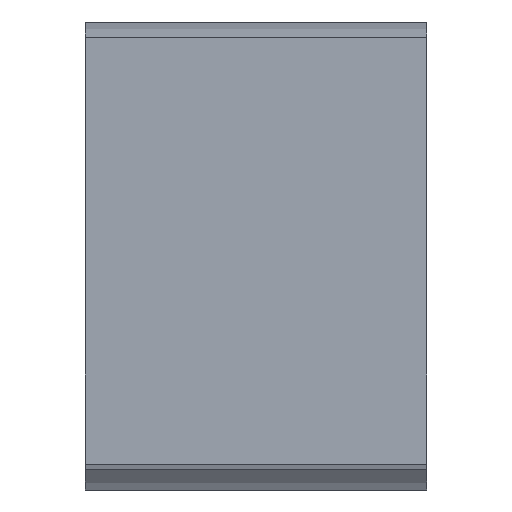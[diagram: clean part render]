
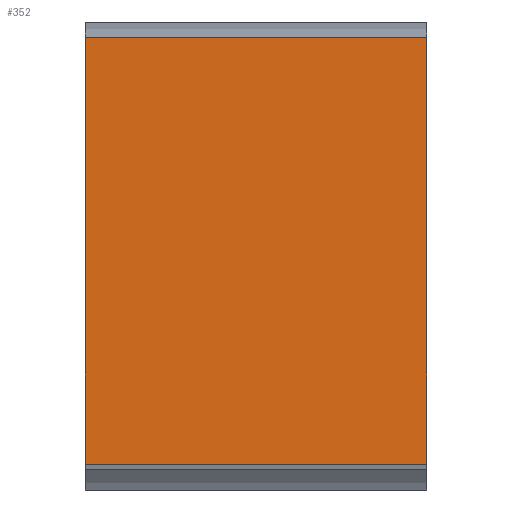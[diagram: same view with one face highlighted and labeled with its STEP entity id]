
A CAD part, top view. The second image highlights one B-rep face of the part: STEP entity #352.
In plain terms, the highlighted planar face has unit normal (0, 0, 1).
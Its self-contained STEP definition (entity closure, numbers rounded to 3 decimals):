
#33 = PLANE('',#34);
#34 = AXIS2_PLACEMENT_3D('',#35,#36,#37);
#35 = CARTESIAN_POINT('',(-4.,-5.,-80.));
#36 = DIRECTION('',(1.,0.,0.));
#37 = DIRECTION('',(0.,0.,1.));
#62 = VERTEX_POINT('',#63);
#63 = CARTESIAN_POINT('',(-4.,5.,-9.));
#77 = PLANE('',#78);
#78 = AXIS2_PLACEMENT_3D('',#79,#80,#81);
#79 = CARTESIAN_POINT('',(-4.,5.,-80.));
#80 = DIRECTION('',(0.,1.,0.));
#81 = DIRECTION('',(0.,0.,1.));
#89 = EDGE_CURVE('',#90,#62,#92,.T.);
#90 = VERTEX_POINT('',#91);
#91 = CARTESIAN_POINT('',(-4.,-5.,-9.));
#92 = SURFACE_CURVE('',#93,(#97,#104),.PCURVE_S1.);
#93 = LINE('',#94,#95);
#94 = CARTESIAN_POINT('',(-4.,-5.,-9.));
#95 = VECTOR('',#96,1.);
#96 = DIRECTION('',(0.,1.,0.));
#97 = PCURVE('',#33,#98);
#98 = DEFINITIONAL_REPRESENTATION('',(#99),#103);
#99 = LINE('',#100,#101);
#100 = CARTESIAN_POINT('',(71.,0.));
#101 = VECTOR('',#102,1.);
#102 = DIRECTION('',(0.,-1.));
#103 = ( GEOMETRIC_REPRESENTATION_CONTEXT(2) 
PARAMETRIC_REPRESENTATION_CONTEXT() REPRESENTATION_CONTEXT('2D SPACE',''
  ) );
#104 = PCURVE('',#105,#110);
#105 = PLANE('',#106);
#106 = AXIS2_PLACEMENT_3D('',#107,#108,#109);
#107 = CARTESIAN_POINT('',(-4.,-5.,-9.));
#108 = DIRECTION('',(0.,0.,1.));
#109 = DIRECTION('',(1.,0.,0.));
#110 = DEFINITIONAL_REPRESENTATION('',(#111),#115);
#111 = LINE('',#112,#113);
#112 = CARTESIAN_POINT('',(0.,0.));
#113 = VECTOR('',#114,1.);
#114 = DIRECTION('',(0.,1.));
#115 = ( GEOMETRIC_REPRESENTATION_CONTEXT(2) 
PARAMETRIC_REPRESENTATION_CONTEXT() REPRESENTATION_CONTEXT('2D SPACE',''
  ) );
#131 = PLANE('',#132);
#132 = AXIS2_PLACEMENT_3D('',#133,#134,#135);
#133 = CARTESIAN_POINT('',(-4.,-5.,-80.));
#134 = DIRECTION('',(0.,1.,0.));
#135 = DIRECTION('',(0.,0.,1.));
#200 = PLANE('',#201);
#201 = AXIS2_PLACEMENT_3D('',#202,#203,#204);
#202 = CARTESIAN_POINT('',(4.,0.,-80.));
#203 = DIRECTION('',(1.,0.,0.));
#204 = DIRECTION('',(-0.,0.,1.));
#259 = VERTEX_POINT('',#260);
#260 = CARTESIAN_POINT('',(4.,5.,-9.));
#283 = EDGE_CURVE('',#62,#259,#284,.T.);
#284 = SURFACE_CURVE('',#285,(#289,#296),.PCURVE_S1.);
#285 = LINE('',#286,#287);
#286 = CARTESIAN_POINT('',(-4.,5.,-9.));
#287 = VECTOR('',#288,1.);
#288 = DIRECTION('',(1.,0.,0.));
#289 = PCURVE('',#77,#290);
#290 = DEFINITIONAL_REPRESENTATION('',(#291),#295);
#291 = LINE('',#292,#293);
#292 = CARTESIAN_POINT('',(71.,0.));
#293 = VECTOR('',#294,1.);
#294 = DIRECTION('',(0.,1.));
#295 = ( GEOMETRIC_REPRESENTATION_CONTEXT(2) 
PARAMETRIC_REPRESENTATION_CONTEXT() REPRESENTATION_CONTEXT('2D SPACE',''
  ) );
#296 = PCURVE('',#105,#297);
#297 = DEFINITIONAL_REPRESENTATION('',(#298),#302);
#298 = LINE('',#299,#300);
#299 = CARTESIAN_POINT('',(0.,10.));
#300 = VECTOR('',#301,1.);
#301 = DIRECTION('',(1.,0.));
#302 = ( GEOMETRIC_REPRESENTATION_CONTEXT(2) 
PARAMETRIC_REPRESENTATION_CONTEXT() REPRESENTATION_CONTEXT('2D SPACE',''
  ) );
#308 = VERTEX_POINT('',#309);
#309 = CARTESIAN_POINT('',(4.,-5.,-9.));
#332 = EDGE_CURVE('',#90,#308,#333,.T.);
#333 = SURFACE_CURVE('',#334,(#338,#345),.PCURVE_S1.);
#334 = LINE('',#335,#336);
#335 = CARTESIAN_POINT('',(-4.,-5.,-9.));
#336 = VECTOR('',#337,1.);
#337 = DIRECTION('',(1.,0.,0.));
#338 = PCURVE('',#131,#339);
#339 = DEFINITIONAL_REPRESENTATION('',(#340),#344);
#340 = LINE('',#341,#342);
#341 = CARTESIAN_POINT('',(71.,0.));
#342 = VECTOR('',#343,1.);
#343 = DIRECTION('',(0.,1.));
#344 = ( GEOMETRIC_REPRESENTATION_CONTEXT(2) 
PARAMETRIC_REPRESENTATION_CONTEXT() REPRESENTATION_CONTEXT('2D SPACE',''
  ) );
#345 = PCURVE('',#105,#346);
#346 = DEFINITIONAL_REPRESENTATION('',(#347),#351);
#347 = LINE('',#348,#349);
#348 = CARTESIAN_POINT('',(0.,0.));
#349 = VECTOR('',#350,1.);
#350 = DIRECTION('',(1.,0.));
#351 = ( GEOMETRIC_REPRESENTATION_CONTEXT(2) 
PARAMETRIC_REPRESENTATION_CONTEXT() REPRESENTATION_CONTEXT('2D SPACE',''
  ) );
#352 = ADVANCED_FACE('',(#353),#105,.T.);
#353 = FACE_BOUND('',#354,.T.);
#354 = EDGE_LOOP('',(#355,#356,#357,#378));
#355 = ORIENTED_EDGE('',*,*,#89,.F.);
#356 = ORIENTED_EDGE('',*,*,#332,.T.);
#357 = ORIENTED_EDGE('',*,*,#358,.T.);
#358 = EDGE_CURVE('',#308,#259,#359,.T.);
#359 = SURFACE_CURVE('',#360,(#364,#371),.PCURVE_S1.);
#360 = LINE('',#361,#362);
#361 = CARTESIAN_POINT('',(4.,-5.,-9.));
#362 = VECTOR('',#363,1.);
#363 = DIRECTION('',(0.,1.,0.));
#364 = PCURVE('',#105,#365);
#365 = DEFINITIONAL_REPRESENTATION('',(#366),#370);
#366 = LINE('',#367,#368);
#367 = CARTESIAN_POINT('',(8.,0.));
#368 = VECTOR('',#369,1.);
#369 = DIRECTION('',(0.,1.));
#370 = ( GEOMETRIC_REPRESENTATION_CONTEXT(2) 
PARAMETRIC_REPRESENTATION_CONTEXT() REPRESENTATION_CONTEXT('2D SPACE',''
  ) );
#371 = PCURVE('',#200,#372);
#372 = DEFINITIONAL_REPRESENTATION('',(#373),#377);
#373 = LINE('',#374,#375);
#374 = CARTESIAN_POINT('',(71.,5.));
#375 = VECTOR('',#376,1.);
#376 = DIRECTION('',(0.,-1.));
#377 = ( GEOMETRIC_REPRESENTATION_CONTEXT(2) 
PARAMETRIC_REPRESENTATION_CONTEXT() REPRESENTATION_CONTEXT('2D SPACE',''
  ) );
#378 = ORIENTED_EDGE('',*,*,#283,.F.);
